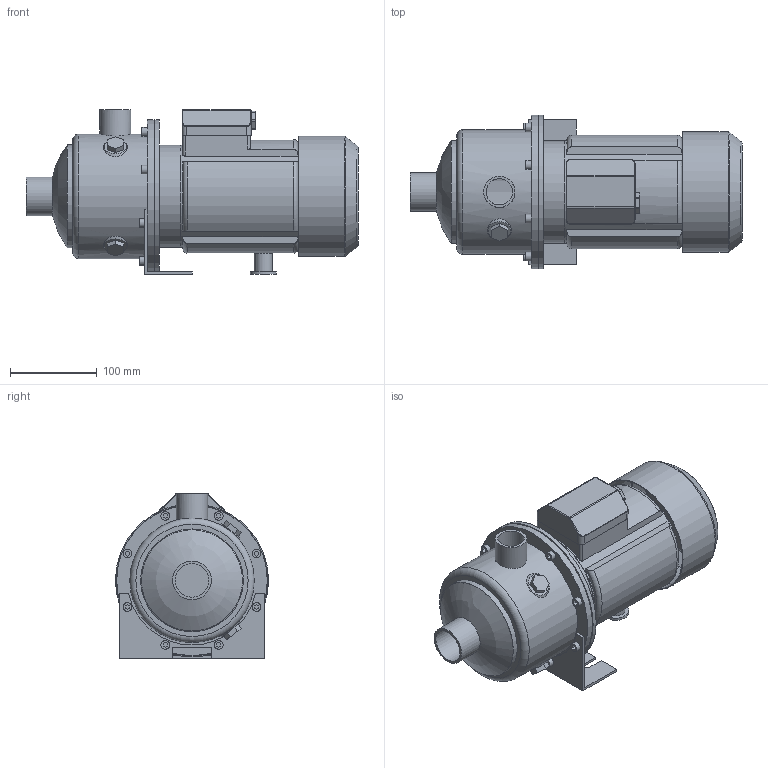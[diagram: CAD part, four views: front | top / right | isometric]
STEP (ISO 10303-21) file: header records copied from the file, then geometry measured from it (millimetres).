
FILE_DESCRIPTION(/* description */ ('Unknown'),/* implementation_level */ '2;1');
FILE_NAME(/* name */ 'MH 5 [2-3] T',/* time_stamp */ '2026-07-10T14:59:36+02:00',/* author */ ('Unknown'),/* organization */ ('Unknown'),/* preprocessor_version */ 'ST-DEVELOPER v20',/* originating_system */ 'Solid Edge',/* authorisation */ 'Unknown');
FILE_SCHEMA (('AUTOMOTIVE_DESIGN {1 0 10303 214 3 1 1}'));
Length unit declared in the file: millimetre
Products named in the file (10): MH 5 [2-3] T; Flangia motore Tonda M71; Corpo MH 3-5 [2-3]; Mot_Wendy_MEC71_075_T; carcassa MEC 71-T_Wendy; Copriventola MEC 71-Wendy; Basetta MEC 71 T-Wendy_new; Piedino MEC 71 int.90; Staffa 3-5-9 int.90
Assembly tree (8 placements, depth 3):
  MH 5 [2-3] T
    Flangia motore Tonda M71
    Corpo MH 3-5 [2-3]
    Mot_Wendy_MEC71_075_T
      carcassa MEC 71-T_Wendy
      Copriventola MEC 71-Wendy
      Basetta MEC 71 T-Wendy_new
    Piedino MEC 71 int.90
    Staffa 3-5-9 int.90
  (unnamed)
Bounding box: 382.6 x 176.5 x 190 mm (x, y, z)
Volume: 1429655.9 mm3; surface area: 472609.1 mm2
Topology: 8 solids, 8 shells, 276 faces, 647 edges, 429 vertices
Faces by surface type: plane 163, cylinder 74, torus 19, cone 14, bspline 4, sphere 2
Full cylindrical faces by diameter (mm): 7 x4, 10 x9, 13.5 x1, 17.5 x1, 21 x1, 30 x1, 30.291 x1, 36 x1, 38.952 x1, 44.5 x1, 110 x1, 114 x3, 116.1 x1, 118 x2, 118.5 x1, 136.5 x1, 138.5 x1, 141.1 x1, 143.5 x1, 173.5 x1, 174.1 x1, 176.5 x2
Entity records: 8860 total; most frequent: CARTESIAN_POINT 1595, DIRECTION 1262, ORIENTED_EDGE 1118, EDGE_CURVE 559, AXIS2_PLACEMENT_3D 461, VERTEX_POINT 398, EDGE_LOOP 385, FACE_BOUND 385
